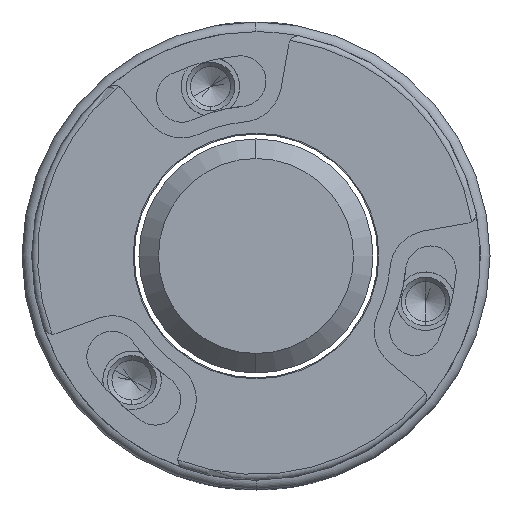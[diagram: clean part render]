
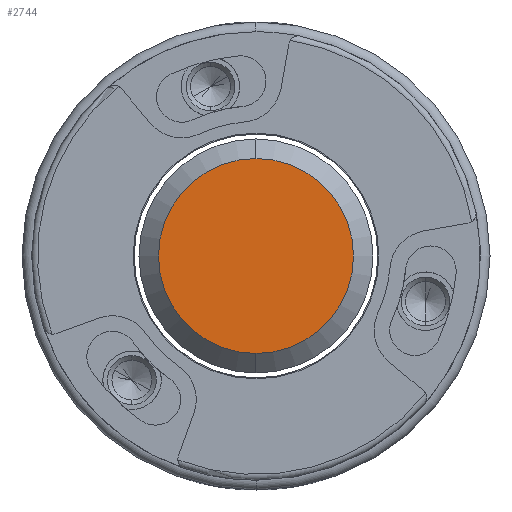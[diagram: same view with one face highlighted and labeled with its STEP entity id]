
A CAD part, left-side view. The second image highlights one B-rep face of the part: STEP entity #2744.
In plain terms, the highlighted planar face has unit normal (-1, 0, 0).
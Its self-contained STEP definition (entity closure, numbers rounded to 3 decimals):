
#225 = DIRECTION ( 'NONE',  ( -1., 0., 0. ) ) ;
#414 = VERTEX_POINT ( 'NONE', #5111 ) ;
#583 = DIRECTION ( 'NONE',  ( 0., 0., 1. ) ) ;
#877 = EDGE_CURVE ( 'NONE', #414, #5440, #1179, .T. ) ;
#1179 = CIRCLE ( 'NONE', #6682, 5. ) ;
#1197 = FACE_OUTER_BOUND ( 'NONE', #4482, .T. ) ;
#1639 = CIRCLE ( 'NONE', #5638, 5. ) ;
#2015 = DIRECTION ( 'NONE',  ( 0., 0., 1. ) ) ;
#2512 = CARTESIAN_POINT ( 'NONE',  ( -9.5, 0., 0. ) ) ;
#2744 = ADVANCED_FACE ( 'NONE', ( #1197 ), #6549, .T. ) ;
#3166 = CARTESIAN_POINT ( 'NONE',  ( -9.5, 0., 0. ) ) ;
#3289 = ORIENTED_EDGE ( 'NONE', *, *, #5593, .T. ) ;
#3385 = CARTESIAN_POINT ( 'NONE',  ( -9.5, 0., 0. ) ) ;
#3584 = DIRECTION ( 'NONE',  ( -1., 0., 0. ) ) ;
#3961 = AXIS2_PLACEMENT_3D ( 'NONE', #3385, #225, #5025 ) ;
#4482 = EDGE_LOOP ( 'NONE', ( #3289, #6678 ) ) ;
#4909 = CARTESIAN_POINT ( 'NONE',  ( -9.5, 0., -5. ) ) ;
#5025 = DIRECTION ( 'NONE',  ( 0., 0., 1. ) ) ;
#5111 = CARTESIAN_POINT ( 'NONE',  ( -9.5, 0., 5. ) ) ;
#5440 = VERTEX_POINT ( 'NONE', #4909 ) ;
#5593 = EDGE_CURVE ( 'NONE', #5440, #414, #1639, .T. ) ;
#5638 = AXIS2_PLACEMENT_3D ( 'NONE', #3166, #5835, #583 ) ;
#5835 = DIRECTION ( 'NONE',  ( -1., 0., 0. ) ) ;
#6549 = PLANE ( 'NONE',  #3961 ) ;
#6678 = ORIENTED_EDGE ( 'NONE', *, *, #877, .T. ) ;
#6682 = AXIS2_PLACEMENT_3D ( 'NONE', #2512, #3584, #2015 ) ;
